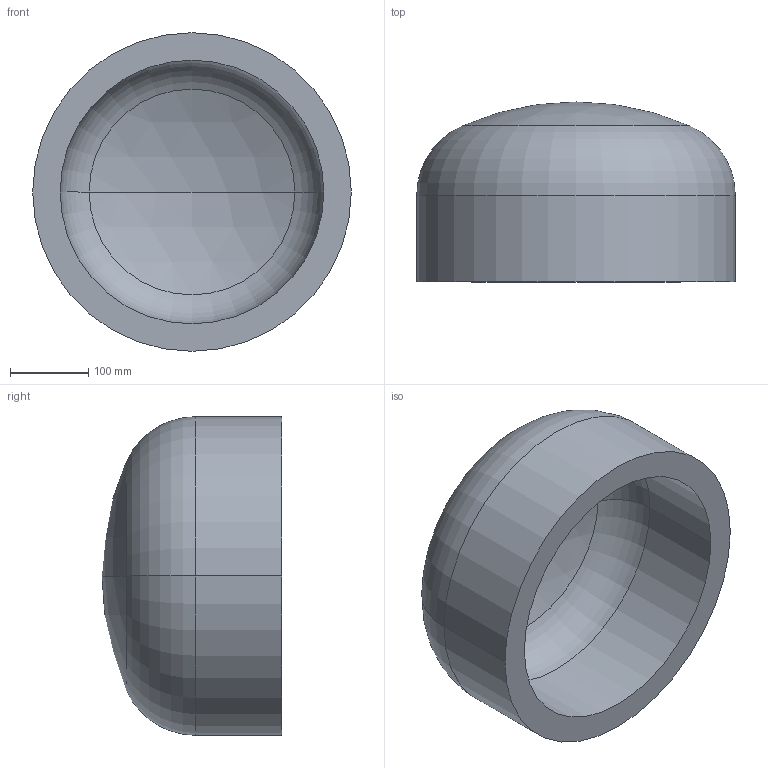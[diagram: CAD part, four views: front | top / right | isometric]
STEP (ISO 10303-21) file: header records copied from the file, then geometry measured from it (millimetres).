
FILE_DESCRIPTION (( 'STEP AP203' ), '1' );
FILE_NAME ('DIN 28013 Korbbogenform_-_Boden DIN 28013 - 406,4 x 110 - I - s=35.step', '2016-07-01T07:50:30', ( '' ), ( '' ), 'SwSTEP 2.0', 'SolidWorks 2013', '' );
FILE_SCHEMA (( 'CONFIG_CONTROL_DESIGN' ));
Length unit declared in the file: millimetre
Products named in the file (1): DIN 28013 Korbbogenform_-_Boden DIN 28013 - 406,4 x 110 - I - s=35
Bounding box: 406.4 x 229.4 x 406.4 mm (x, y, z)
Volume: 10127544 mm3; surface area: 622119.9 mm2
Topology: 1 solids, 1 shells, 13 faces, 24 edges, 14 vertices
Faces by surface type: torus 4, cylinder 4, sphere 4, plane 1
Entity records: 407 total; most frequent: DIRECTION 72, CARTESIAN_POINT 52, ORIENTED_EDGE 48, AXIS2_PLACEMENT_3D 34, EDGE_CURVE 24, CIRCLE 20, EDGE_LOOP 14, VERTEX_POINT 14
